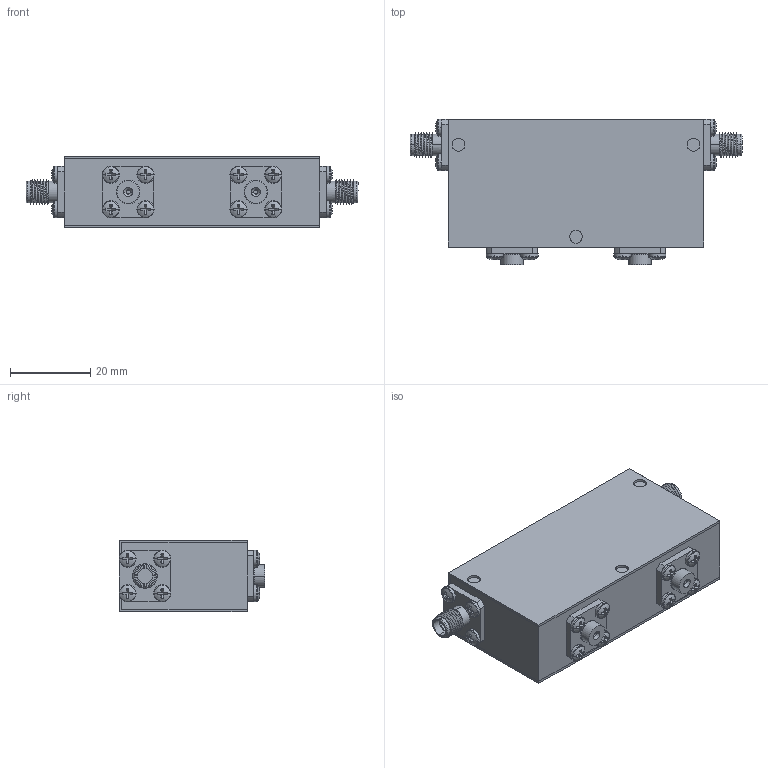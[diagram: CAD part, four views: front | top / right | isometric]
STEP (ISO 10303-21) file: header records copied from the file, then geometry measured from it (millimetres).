
FILE_DESCRIPTION (( 'STEP AP214' ), '1' );
FILE_NAME ('Package 18 Iso FF.step', '2021-12-01T20:59:02', ( '' ), ( '' ), 'SwSTEP 2.0', 'SolidWorks 2016', '' );
FILE_SCHEMA (( 'AUTOMOTIVE_DESIGN' ));
Length unit declared in the file: inch
Products named in the file (6): 030013-1A Same Base thickness as connectors; pan cross head_ai_CR-PHMS 0.086-56x0.125x0.125-N; Delta SMA-Female 0.500 flange Threaded; Package Size 18; Package 18 Iso FF; Package 18
Assembly tree (22 placements, depth 2):
  Package 18 Iso FF
    Package 18
    Delta SMA-Female 0.500 flange Threaded  x2
    pan cross head_ai_CR-PHMS 0.086-56x0.125x0.125-N  x16
    030013-1A Same Base thickness as connectors  x2
    Package Size 18
Bounding box: 82.55 x 36.28 x 17.78 mm (x, y, z)
Volume: 37390.5 mm3; surface area: 20782.7 mm2
Topology: 22 solids, 22 shells, 538 faces, 1222 edges, 754 vertices
Faces by surface type: plane 296, cylinder 156, torus 40, sphere 32, cone 8, bspline 6
Entity records: 4805 total; most frequent: CARTESIAN_POINT 1374, DIRECTION 727, ORIENTED_EDGE 594, EDGE_CURVE 297, AXIS2_PLACEMENT_3D 294, VERTEX_POINT 191, EDGE_LOOP 160, CIRCLE 150
